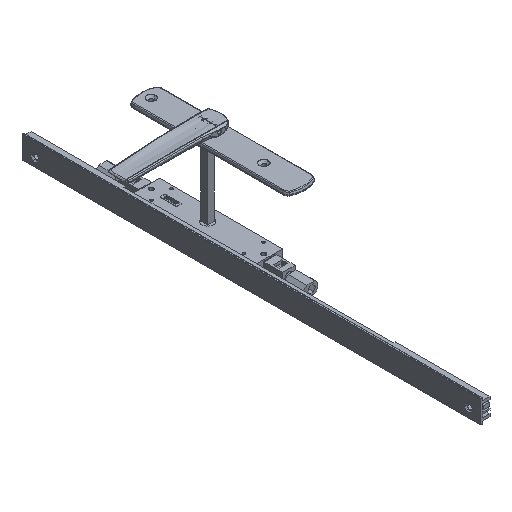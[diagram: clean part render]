
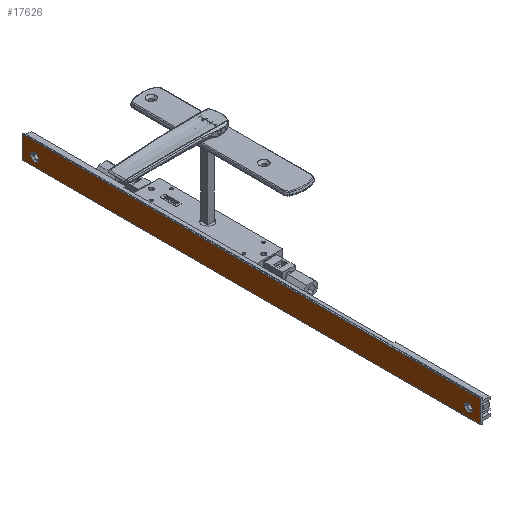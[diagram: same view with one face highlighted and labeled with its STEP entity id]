
A CAD part, isometric view. The second image highlights one B-rep face of the part: STEP entity #17626.
In plain terms, the highlighted planar face has unit normal (-1, 0, 0) as drawn and (0, 1, 0) by its records, which use the part's own axes.
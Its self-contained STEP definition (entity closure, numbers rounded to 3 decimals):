
#34 = VECTOR ( 'NONE', #14780, 1000. ) ;
#243 = CARTESIAN_POINT ( 'NONE',  ( 20.8, 12.4, 544. ) ) ;
#314 = EDGE_CURVE ( 'NONE', #18933, #12871, #28382, .T. ) ;
#567 = VERTEX_POINT ( 'NONE', #16097 ) ;
#709 = DIRECTION ( 'NONE',  ( -1., 0., 0. ) ) ;
#775 = EDGE_CURVE ( 'NONE', #19738, #567, #13105, .T. ) ;
#1098 = DIRECTION ( 'NONE',  ( 0., 0., 1. ) ) ;
#1291 = AXIS2_PLACEMENT_3D ( 'NONE', #17369, #22237, #7615 ) ;
#2575 = FACE_OUTER_BOUND ( 'NONE', #11133, .T. ) ;
#2628 = ORIENTED_EDGE ( 'NONE', *, *, #314, .F. ) ;
#2884 = CARTESIAN_POINT ( 'NONE',  ( -4.4, 12.4, 0. ) ) ;
#3010 = CARTESIAN_POINT ( 'NONE',  ( -4.4, 12.4, 544. ) ) ;
#3307 = ORIENTED_EDGE ( 'NONE', *, *, #26645, .T. ) ;
#3783 = CARTESIAN_POINT ( 'NONE',  ( 11.8, 12.4, 19.89 ) ) ;
#5030 = CARTESIAN_POINT ( 'NONE',  ( 11.8, 12.4, 533.889 ) ) ;
#5140 = ORIENTED_EDGE ( 'NONE', *, *, #24850, .F. ) ;
#5256 = DIRECTION ( 'NONE',  ( 0., 0., 1. ) ) ;
#5659 = CARTESIAN_POINT ( 'NONE',  ( 22., 12.4, 0. ) ) ;
#5786 = CARTESIAN_POINT ( 'NONE',  ( 11.8, 12.4, 529. ) ) ;
#5958 = DIRECTION ( 'NONE',  ( 0., 1., 0. ) ) ;
#6597 = CARTESIAN_POINT ( 'NONE',  ( 11.8, 12.4, 15. ) ) ;
#7294 = FACE_BOUND ( 'NONE', #8063, .T. ) ;
#7615 = DIRECTION ( 'NONE',  ( 0., 0., 1. ) ) ;
#8063 = EDGE_LOOP ( 'NONE', ( #5140, #2628 ) ) ;
#8590 = AXIS2_PLACEMENT_3D ( 'NONE', #5786, #5958, #15424 ) ;
#9565 = LINE ( 'NONE', #9876, #34 ) ;
#9876 = CARTESIAN_POINT ( 'NONE',  ( 20.8, 12.4, 544. ) ) ;
#10607 = VECTOR ( 'NONE', #709, 1000. ) ;
#11133 = EDGE_LOOP ( 'NONE', ( #18500, #3307, #12285, #27080 ) ) ;
#12285 = ORIENTED_EDGE ( 'NONE', *, *, #12903, .F. ) ;
#12732 = CARTESIAN_POINT ( 'NONE',  ( 22., 12.4, 0. ) ) ;
#12784 = DIRECTION ( 'NONE',  ( 0., 0., 1. ) ) ;
#12871 = VERTEX_POINT ( 'NONE', #3783 ) ;
#12903 = EDGE_CURVE ( 'NONE', #567, #23348, #9565, .T. ) ;
#12990 = LINE ( 'NONE', #2884, #20749 ) ;
#13105 = LINE ( 'NONE', #5659, #26437 ) ;
#13250 = DIRECTION ( 'NONE',  ( 0., 1., 0. ) ) ;
#13364 = ORIENTED_EDGE ( 'NONE', *, *, #28956, .F. ) ;
#14045 = AXIS2_PLACEMENT_3D ( 'NONE', #27038, #13250, #1098 ) ;
#14331 = VERTEX_POINT ( 'NONE', #22420 ) ;
#14576 = FACE_BOUND ( 'NONE', #24939, .T. ) ;
#14780 = DIRECTION ( 'NONE',  ( -1., 0., 0. ) ) ;
#15160 = CIRCLE ( 'NONE', #26708, 4.89 ) ;
#15424 = DIRECTION ( 'NONE',  ( 0., 0., 1. ) ) ;
#16097 = CARTESIAN_POINT ( 'NONE',  ( 22., 12.4, 544. ) ) ;
#16337 = VERTEX_POINT ( 'NONE', #22132 ) ;
#16711 = CIRCLE ( 'NONE', #8590, 4.889 ) ;
#17369 = CARTESIAN_POINT ( 'NONE',  ( 11.8, 12.4, 15. ) ) ;
#17626 = ADVANCED_FACE ( 'NONE', ( #7294, #14576, #2575 ), #21785, .F. ) ;
#18500 = ORIENTED_EDGE ( 'NONE', *, *, #20095, .T. ) ;
#18933 = VERTEX_POINT ( 'NONE', #20326 ) ;
#19738 = VERTEX_POINT ( 'NONE', #12732 ) ;
#19904 = CARTESIAN_POINT ( 'NONE',  ( 20.8, 12.4, 0. ) ) ;
#20095 = EDGE_CURVE ( 'NONE', #19738, #16337, #20358, .T. ) ;
#20326 = CARTESIAN_POINT ( 'NONE',  ( 11.8, 12.4, 10.111 ) ) ;
#20358 = LINE ( 'NONE', #19904, #10607 ) ;
#20461 = EDGE_CURVE ( 'NONE', #14331, #24706, #16711, .T. ) ;
#20749 = VECTOR ( 'NONE', #5256, 1000. ) ;
#21785 = PLANE ( 'NONE',  #22436 ) ;
#22132 = CARTESIAN_POINT ( 'NONE',  ( -4.4, 12.4, 0. ) ) ;
#22237 = DIRECTION ( 'NONE',  ( 0., 1., 0. ) ) ;
#22420 = CARTESIAN_POINT ( 'NONE',  ( 11.8, 12.4, 524.111 ) ) ;
#22436 = AXIS2_PLACEMENT_3D ( 'NONE', #243, #27692, #27541 ) ;
#22514 = CIRCLE ( 'NONE', #14045, 4.889 ) ;
#23100 = ORIENTED_EDGE ( 'NONE', *, *, #20461, .F. ) ;
#23348 = VERTEX_POINT ( 'NONE', #3010 ) ;
#24706 = VERTEX_POINT ( 'NONE', #5030 ) ;
#24850 = EDGE_CURVE ( 'NONE', #12871, #18933, #15160, .T. ) ;
#24939 = EDGE_LOOP ( 'NONE', ( #13364, #23100 ) ) ;
#25623 = DIRECTION ( 'NONE',  ( 0., 1., 0. ) ) ;
#26437 = VECTOR ( 'NONE', #12784, 1000. ) ;
#26645 = EDGE_CURVE ( 'NONE', #16337, #23348, #12990, .T. ) ;
#26708 = AXIS2_PLACEMENT_3D ( 'NONE', #6597, #25623, #30460 ) ;
#27038 = CARTESIAN_POINT ( 'NONE',  ( 11.8, 12.4, 529. ) ) ;
#27080 = ORIENTED_EDGE ( 'NONE', *, *, #775, .F. ) ;
#27541 = DIRECTION ( 'NONE',  ( 1., 0., 0. ) ) ;
#27692 = DIRECTION ( 'NONE',  ( 0., -1., 0. ) ) ;
#28382 = CIRCLE ( 'NONE', #1291, 4.89 ) ;
#28956 = EDGE_CURVE ( 'NONE', #24706, #14331, #22514, .T. ) ;
#30460 = DIRECTION ( 'NONE',  ( 0., 0., 1. ) ) ;
